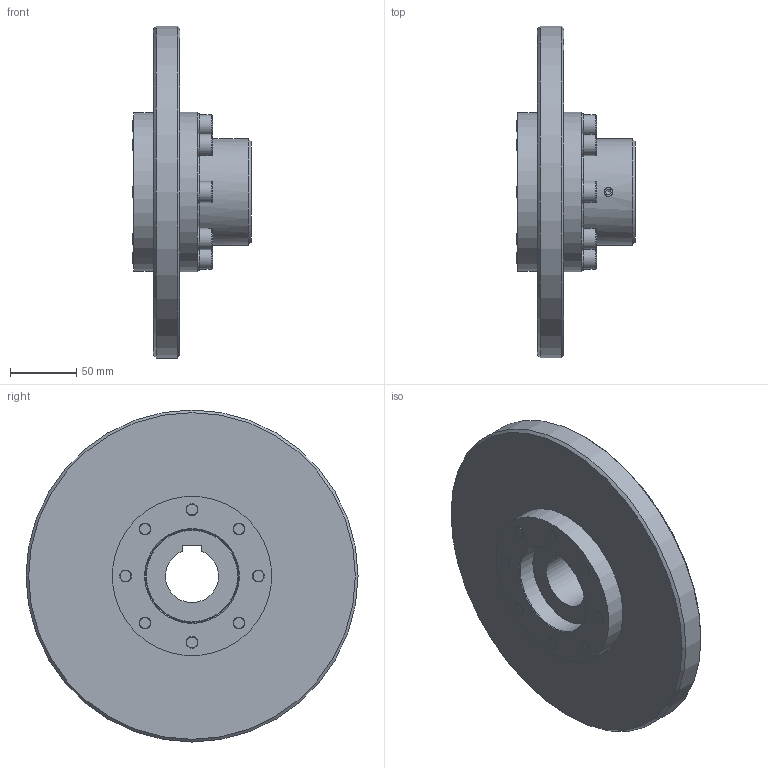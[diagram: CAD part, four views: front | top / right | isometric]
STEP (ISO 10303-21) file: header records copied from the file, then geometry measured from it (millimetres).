
FILE_DESCRIPTION(/* description */ (''),/* implementation_level */ '2;1');
FILE_NAME(/* name */ 'C:\Users\milman01\Desktop\step file\xxxxxx\54706.stp',/* time_stamp */ '2017-03-15T11:55:12+01:00',/* author */ ('milman01'),/* organization */ (''),/* preprocessor_version */ 'ST-DEVELOPER v16.1',/* originating_system */ 'Autodesk Inventor 2016',/* authorisation */ '');
FILE_SCHEMA (('AUTOMOTIVE_DESIGN { 1 0 10303 214 3 1 1 }'));
Length unit declared in the file: millimetre
Products named in the file (1): 54706_Shrinkwrap_1
Bounding box: 88.9 x 250 x 250 mm (x, y, z)
Volume: 1359398.1 mm3; surface area: 170471.7 mm2
Topology: 1 solids, 11 shells, 210 faces, 463 edges, 302 vertices
Faces by surface type: plane 120, cylinder 51, cone 29, torus 10
Full cylindrical faces by diameter (mm): 6.647 x1, 10 x8, 10.5 x8, 11 x8, 16 x8, 18 x8, 70 x3, 80 x1, 120 x2, 250 x1
Entity records: 5348 total; most frequent: CARTESIAN_POINT 1063, DIRECTION 846, ORIENTED_EDGE 676, AXIS2_PLACEMENT_3D 361, EDGE_LOOP 345, EDGE_CURVE 338, VERTEX_POINT 263, STYLED_ITEM 211
